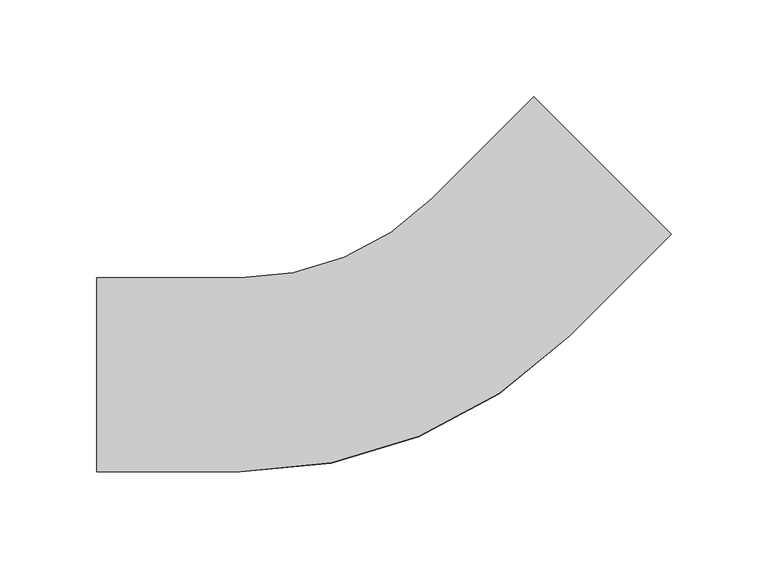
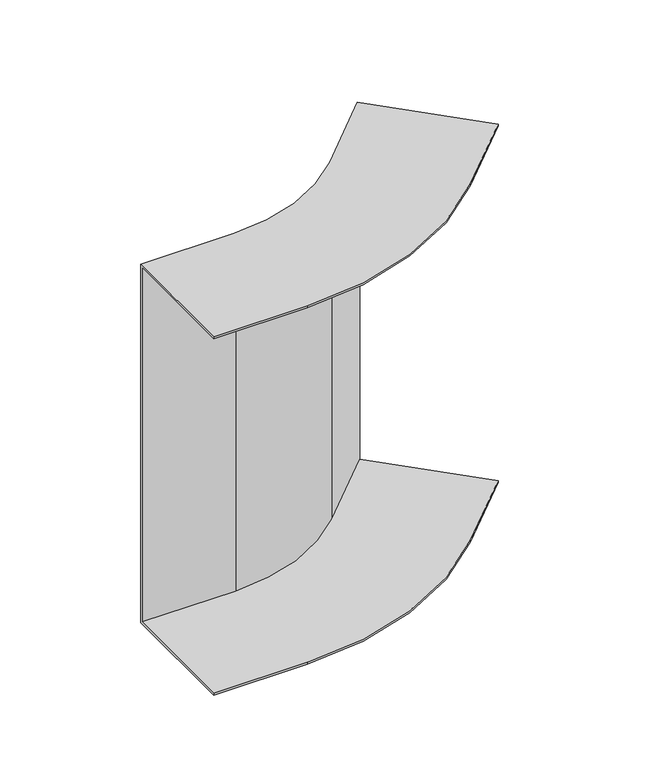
"""IFC4 building model written with IfcOpenShell, lengths in millimetres: cable carrier fitting geometry, BAKS_KK_Vertical bend INTERNAL_LU : LUMPNP_H100."""

from ifc_helpers import new_model, si_unit, frame, origin, place, context, project, spatial, polyline, circle_curve, source, transform, mapped, element, save
from ifc_brep_helpers import plane_surface, cylinder_surface, revolved_surface, advanced_brep


def cable_carrier_fitting_c3247b3d(model_context):
    return source(origin(), model_context, "Body", "AdvancedBrep", [
        advanced_brep(
        [(-152.7005769, -50.0, 150.0), (-152.7005769, 50.0, 150.0), (-152.7005769, 50.0, -150.0), (-152.7005769, -50.0, -150.0), (-152.7005769, -50.0, -148.5), (-152.7005769, 48.5, -148.5), (-152.7005769, 48.5, 148.5), (-152.7005769, -50.0, 148.5), (143.3309524, 72.6202743, 150.0), (143.3309524, 72.6202743, 148.5), (73.6809345, 142.2702923, 148.5), (73.6809345, 142.2702923, -148.5), (143.3309524, 72.6202743, -148.5), (143.3309524, 72.6202743, -150.0), (72.6202743, 143.3309524, -150.0), (72.6202743, 143.3309524, 150.0), (-78.7005769, -50.0, 150.0), (91.0050506, 20.2943725, 150.0), (20.2943725, 91.0050506, 150.0), (-78.7005769, 50.0, 150.0), (-78.7005769, 50.0, -150.0), (20.2943725, 91.0050506, -150.0), (91.0050506, 20.2943725, -150.0), (-78.7005769, -50.0, -150.0), (-78.7005769, -50.0, -148.5), (91.0050506, 20.2943725, -148.5), (21.3550327, 89.9443905, -148.5), (-78.7005769, 48.5, -148.5), (-78.7005769, 48.5, 148.5), (21.3550327, 89.9443905, 148.5), (91.0050506, 20.2943725, 148.5), (-78.7005769, -50.0, 148.5)],
        [
            (0, 1),
            (1, 2),
            (2, 3),
            (3, 4),
            (4, 5),
            (5, 6),
            (6, 7),
            (7, 0),
            (8, 9),
            (9, 10),
            (10, 11),
            (11, 12),
            (12, 13),
            (13, 14),
            (14, 15),
            (15, 8),
            (0, 16),
            (16, 17, circle_curve(frame((-78.7005769, 190.0, 150.0), z_axis=(0.0, 0.0, 1.0), x_axis=(0.0, -1.0, 0.0)), 240.0)),
            (17, 8),
            (15, 18),
            (18, 19, circle_curve(frame((-78.7005769, 190.0, 150.0), z_axis=(0.0, 0.0, -1.0), x_axis=(0.0, -1.0, 0.0)), 140.0)),
            (19, 1),
            (19, 20),
            (20, 2),
            (20, 21, circle_curve(frame((-78.7005769, 190.0, -150.0), z_axis=(0.0, 0.0, 1.0), x_axis=(0.0, -1.0, 0.0)), 140.0)),
            (21, 14),
            (13, 22),
            (22, 23, circle_curve(frame((-78.7005769, 190.0, -150.0), z_axis=(0.0, 0.0, -1.0), x_axis=(0.0, -1.0, 0.0)), 240.0)),
            (23, 3),
            (23, 24),
            (24, 4),
            (24, 25, circle_curve(frame((-78.7005769, 190.0, -148.5), z_axis=(0.0, 0.0, 1.0), x_axis=(0.0, -1.0, 0.0)), 240.0)),
            (25, 12),
            (11, 26),
            (26, 27, circle_curve(frame((-78.7005769, 190.0, -148.5), z_axis=(0.0, 0.0, -1.0), x_axis=(0.0, -1.0, 0.0)), 141.5)),
            (27, 5),
            (27, 28),
            (28, 6),
            (28, 29, circle_curve(frame((-78.7005769, 190.0, 148.5), z_axis=(0.0, 0.0, 1.0), x_axis=(0.0, -1.0, 0.0)), 141.5)),
            (29, 10),
            (9, 30),
            (30, 31, circle_curve(frame((-78.7005769, 190.0, 148.5), z_axis=(0.0, 0.0, -1.0), x_axis=(0.0, -1.0, 0.0)), 240.0)),
            (31, 7),
            (31, 16),
            (18, 21),
            (22, 25),
            (26, 29),
            (30, 17),
        ],
        [
            plane_surface(frame((-152.7005769, 0.0, 0.0), z_axis=(-1.0, 0.0, 0.0), x_axis=(0.0, 0.0, 1.0))),
            plane_surface(frame((107.9756134, 107.9756134, 0.0), z_axis=(0.7071067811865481, 0.7071067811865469, 0.0), x_axis=(0.0, 0.0, 1.0))),
            plane_surface(frame((-152.7005769, -50.0, 150.0), z_axis=(0.0, 0.0, 1.0), x_axis=(1.0, 0.0, 0.0))),
            plane_surface(frame((-152.7005769, 50.0, 150.0), z_axis=(0.0, 1.0, 0.0), x_axis=(1.0, 0.0, 0.0))),
            plane_surface(frame((-152.7005769, 50.0, -150.0), z_axis=(0.0, 0.0, -1.0), x_axis=(1.0, 0.0, 0.0))),
            plane_surface(frame((-152.7005769, -50.0, -150.0), z_axis=(0.0, -1.0, 0.0), x_axis=(1.0, 0.0, 0.0))),
            plane_surface(frame((-152.7005769, -50.0, -148.5), z_axis=(0.0, 0.0, 1.0), x_axis=(1.0, 0.0, 0.0))),
            plane_surface(frame((-152.7005769, 48.5, -148.5), z_axis=(0.0, -1.0, 0.0), x_axis=(1.0, 0.0, 0.0))),
            plane_surface(frame((-152.7005769, 48.5, 148.5), z_axis=(0.0, 0.0, -1.0), x_axis=(1.0, 0.0, 0.0))),
            plane_surface(frame((-152.7005769, -50.0, 148.5), z_axis=(0.0, -1.0, 0.0), x_axis=(1.0, 0.0, 0.0))),
            revolved_surface(polyline([(-78.7005769, 50.0, 150.0), (-78.7005769, 50.0, -150.0)]), (-78.7005769, 190.0, 0.0), (0.0, 0.0, 1.0)),
            cylinder_surface(frame((-78.7005769, 190.0, 0.0), z_axis=(0.0, 0.0, 1.0), x_axis=(0.0, -1.0, 0.0)), 240.0),
            cylinder_surface(frame((-78.7005769, 190.0, 0.0), z_axis=(0.0, 0.0, 1.0), x_axis=(0.0, -1.0, 0.0)), 141.5),
            plane_surface(frame((20.2943725, 91.0050506, 150.0), z_axis=(-0.7071067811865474, 0.7071067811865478, 0.0), x_axis=(0.7071067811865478, 0.7071067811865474, 0.0))),
            plane_surface(frame((91.0050506, 20.2943725, -150.0), z_axis=(0.7071067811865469, -0.7071067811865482, 0.0), x_axis=(0.7071067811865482, 0.7071067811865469, 0.0))),
            plane_surface(frame((21.3550327, 89.9443905, -148.5), z_axis=(0.7071067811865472, -0.707106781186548, 0.0), x_axis=(0.707106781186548, 0.7071067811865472, 0.0))),
            plane_surface(frame((91.0050506, 20.2943725, 148.5), z_axis=(0.7071067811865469, -0.7071067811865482, 0.0), x_axis=(0.7071067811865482, 0.7071067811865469, 0.0))),
        ],
        [
            (0, [[1, 2, 3, 4, 5, 6, 7, 8]]),
            (1, [[9, 10, 11, 12, 13, 14, 15, 16]]),
            (2, [[-1, 17, 18, 19, -16, 20, 21, 22]]),
            (3, [[-2, -22, 23, 24]]),
            (4, [[-3, -24, 25, 26, -14, 27, 28, 29]]),
            (5, [[-4, -29, 30, 31]]),
            (6, [[-5, -31, 32, 33, -12, 34, 35, 36]]),
            (7, [[-6, -36, 37, 38]]),
            (8, [[-7, -38, 39, 40, -10, 41, 42, 43]]),
            (9, [[-8, -43, 44, -17]]),
            (10, [[-25, -23, -21, 45]]),
            (11, [[-32, -30, -28, 46]]),
            (12, [[-39, -37, -35, 47]]),
            (11, [[-18, -44, -42, 48]]),
            (13, [[-45, -20, -15, -26]]),
            (14, [[-46, -27, -13, -33]]),
            (15, [[-47, -34, -11, -40]]),
            (16, [[-48, -41, -9, -19]]),
        ],
    ),
    ])


if __name__ == "__main__":
    model = new_model("IFC4")
    model_context = context("Model", 3, world=origin())
    ifc_project = project(units=[si_unit("LENGTHUNIT", "METRE", prefix="MILLI")], contexts=[model_context])
    site = spatial("IfcSite", under=ifc_project)
    building = spatial("IfcBuilding", under=site)
    placement = place(None, origin())
    cable_carrier_fitting_shape = cable_carrier_fitting_c3247b3d(model_context)
    element("IfcCableCarrierFitting", 1, ObjectType="BAKS_KK_Vertical bend INTERNAL_LU : LUMPNP_H100", at=placement, inside=building, context=model_context, shape_type="MappedRepresentation", body=[
        mapped(cable_carrier_fitting_shape, transform((0.0, 0.0, 0.0), x_axis=(1.0, 0.0, 0.0), y_axis=(0.0, 1.0, 0.0), z_axis=(0.0, 0.0, 1.0))),
    ])
    save(model, "model.ifc")
